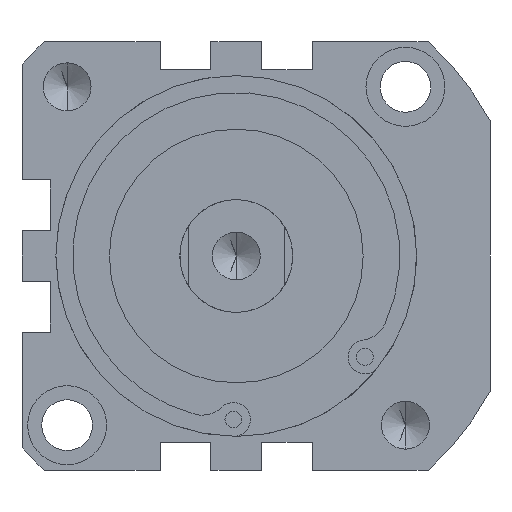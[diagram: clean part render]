
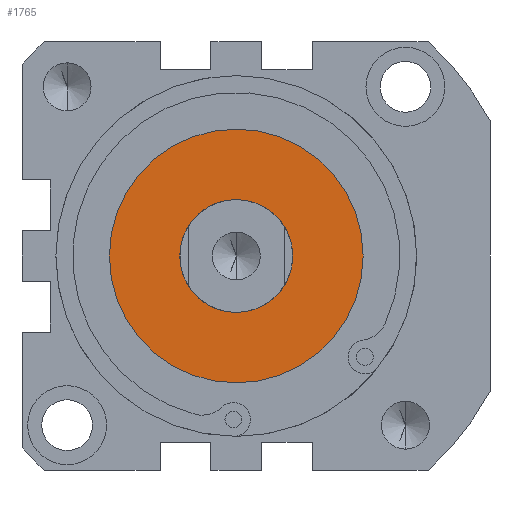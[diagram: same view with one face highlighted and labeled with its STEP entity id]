
A CAD part, front view. The second image highlights one B-rep face of the part: STEP entity #1765.
In plain terms, the highlighted planar face has unit normal (0, -1, 0).
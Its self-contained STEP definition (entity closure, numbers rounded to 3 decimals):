
#81 = DIRECTION ( 'NONE',  ( 0., 0., 1. ) ) ;
#139 = DIRECTION ( 'NONE',  ( 0., -1., 0. ) ) ;
#154 = EDGE_LOOP ( 'NONE', ( #4108, #3346 ) ) ;
#259 = EDGE_LOOP ( 'NONE', ( #2984, #625 ) ) ;
#261 = AXIS2_PLACEMENT_3D ( 'NONE', #4165, #139, #486 ) ;
#486 = DIRECTION ( 'NONE',  ( 0., 0., 1. ) ) ;
#625 = ORIENTED_EDGE ( 'NONE', *, *, #3099, .F. ) ;
#1175 = CARTESIAN_POINT ( 'NONE',  ( 0., -76., -10. ) ) ;
#1228 = EDGE_CURVE ( 'NONE', #2611, #4132, #3411, .T. ) ;
#1304 = CIRCLE ( 'NONE', #2726, 10. ) ;
#1343 = DIRECTION ( 'NONE',  ( 0., 1., 0. ) ) ;
#1408 = DIRECTION ( 'NONE',  ( 0., 1., 0. ) ) ;
#1550 = AXIS2_PLACEMENT_3D ( 'NONE', #3325, #1343, #2345 ) ;
#1765 = ADVANCED_FACE ( 'NONE', ( #3902, #2999 ), #2741, .F. ) ;
#2305 = VERTEX_POINT ( 'NONE', #3063 ) ;
#2345 = DIRECTION ( 'NONE',  ( 0., 0., 1. ) ) ;
#2398 = CIRCLE ( 'NONE', #1550, 22.5 ) ;
#2545 = CIRCLE ( 'NONE', #3460, 22.5 ) ;
#2552 = CARTESIAN_POINT ( 'NONE',  ( 0., -76., 0. ) ) ;
#2611 = VERTEX_POINT ( 'NONE', #1175 ) ;
#2622 = CARTESIAN_POINT ( 'NONE',  ( 0., -76., -22.5 ) ) ;
#2627 = CARTESIAN_POINT ( 'NONE',  ( 0., -76., 0. ) ) ;
#2726 = AXIS2_PLACEMENT_3D ( 'NONE', #2627, #4003, #4020 ) ;
#2741 = PLANE ( 'NONE',  #4346 ) ;
#2915 = DIRECTION ( 'NONE',  ( 0., 0., 1. ) ) ;
#2984 = ORIENTED_EDGE ( 'NONE', *, *, #4053, .F. ) ;
#2999 = FACE_BOUND ( 'NONE', #154, .T. ) ;
#3063 = CARTESIAN_POINT ( 'NONE',  ( 0., -76., 22.5 ) ) ;
#3078 = EDGE_CURVE ( 'NONE', #4132, #2611, #1304, .T. ) ;
#3099 = EDGE_CURVE ( 'NONE', #2305, #4241, #2398, .T. ) ;
#3270 = CARTESIAN_POINT ( 'NONE',  ( 0., -76., 10. ) ) ;
#3325 = CARTESIAN_POINT ( 'NONE',  ( 0., -76., 0. ) ) ;
#3346 = ORIENTED_EDGE ( 'NONE', *, *, #1228, .F. ) ;
#3411 = CIRCLE ( 'NONE', #261, 10. ) ;
#3460 = AXIS2_PLACEMENT_3D ( 'NONE', #2552, #4272, #2915 ) ;
#3902 = FACE_OUTER_BOUND ( 'NONE', #259, .T. ) ;
#4003 = DIRECTION ( 'NONE',  ( 0., -1., 0. ) ) ;
#4020 = DIRECTION ( 'NONE',  ( 0., 0., 1. ) ) ;
#4053 = EDGE_CURVE ( 'NONE', #4241, #2305, #2545, .T. ) ;
#4076 = CARTESIAN_POINT ( 'NONE',  ( 0., -76., 0. ) ) ;
#4108 = ORIENTED_EDGE ( 'NONE', *, *, #3078, .F. ) ;
#4132 = VERTEX_POINT ( 'NONE', #3270 ) ;
#4165 = CARTESIAN_POINT ( 'NONE',  ( 0., -76., 0. ) ) ;
#4241 = VERTEX_POINT ( 'NONE', #2622 ) ;
#4272 = DIRECTION ( 'NONE',  ( 0., 1., 0. ) ) ;
#4346 = AXIS2_PLACEMENT_3D ( 'NONE', #4076, #1408, #81 ) ;
